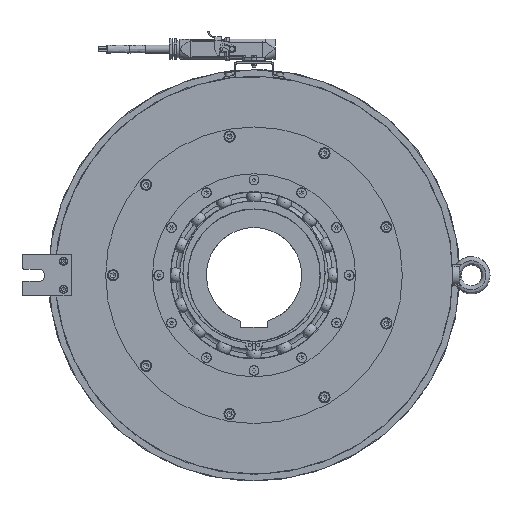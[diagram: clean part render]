
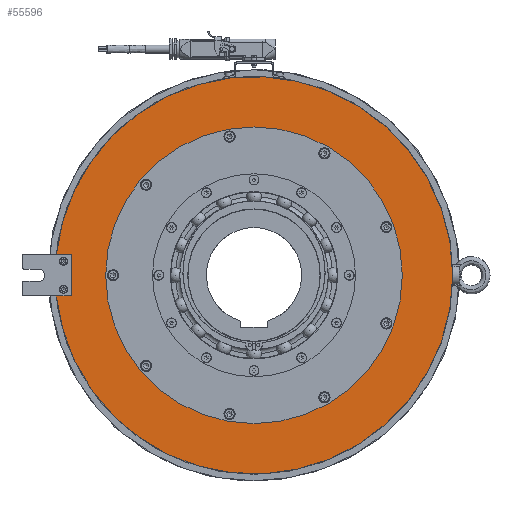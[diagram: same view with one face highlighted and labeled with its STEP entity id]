
A CAD part, left-side view. The second image highlights one B-rep face of the part: STEP entity #55596.
In plain terms, the highlighted planar face has unit normal (-1, 0, 0).
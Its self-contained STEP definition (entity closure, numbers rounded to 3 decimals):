
#1630=FACE_BOUND('',#9578,.T.);
#3057=PLANE('',#61132);
#6232=FACE_OUTER_BOUND('',#9577,.T.);
#9577=EDGE_LOOP('',(#48510,#48511,#48512,#48513,#48514,#48515,#48516));
#9578=EDGE_LOOP('',(#48517,#48518));
#12495=CIRCLE('',#61109,239.8);
#12498=CIRCLE('',#61112,239.8);
#12512=CIRCLE('',#61133,2.);
#12513=CIRCLE('',#61134,2.);
#12514=CIRCLE('',#61135,179.);
#12515=CIRCLE('',#61136,179.);
#16367=LINE('',#102837,#20297);
#16368=LINE('',#102839,#20298);
#16369=LINE('',#102843,#20299);
#20297=VECTOR('',#75848,10.);
#20298=VECTOR('',#75849,10.);
#20299=VECTOR('',#75852,10.);
#25608=VERTEX_POINT('',#102705);
#25609=VERTEX_POINT('',#102707);
#25610=VERTEX_POINT('',#102709);
#25632=VERTEX_POINT('',#102836);
#25633=VERTEX_POINT('',#102838);
#25634=VERTEX_POINT('',#102840);
#25635=VERTEX_POINT('',#102842);
#25636=VERTEX_POINT('',#102845);
#25637=VERTEX_POINT('',#102846);
#33304=EDGE_CURVE('',#25610,#25609,#12495,.T.);
#33313=EDGE_CURVE('',#25608,#25610,#12498,.T.);
#33332=EDGE_CURVE('',#25632,#25608,#16367,.T.);
#33333=EDGE_CURVE('',#25609,#25633,#16368,.T.);
#33334=EDGE_CURVE('',#25633,#25634,#12512,.T.);
#33335=EDGE_CURVE('',#25634,#25635,#16369,.T.);
#33336=EDGE_CURVE('',#25635,#25632,#12513,.T.);
#33337=EDGE_CURVE('',#25636,#25637,#12514,.T.);
#33338=EDGE_CURVE('',#25637,#25636,#12515,.T.);
#48510=ORIENTED_EDGE('',*,*,#33332,.T.);
#48511=ORIENTED_EDGE('',*,*,#33313,.T.);
#48512=ORIENTED_EDGE('',*,*,#33304,.T.);
#48513=ORIENTED_EDGE('',*,*,#33333,.T.);
#48514=ORIENTED_EDGE('',*,*,#33334,.T.);
#48515=ORIENTED_EDGE('',*,*,#33335,.T.);
#48516=ORIENTED_EDGE('',*,*,#33336,.T.);
#48517=ORIENTED_EDGE('',*,*,#33337,.T.);
#48518=ORIENTED_EDGE('',*,*,#33338,.T.);
#55596=ADVANCED_FACE('',(#6232,#1630),#3057,.T.);
#61109=AXIS2_PLACEMENT_3D('',#102710,#75793,#75794);
#61112=AXIS2_PLACEMENT_3D('',#102760,#75803,#75804);
#61132=AXIS2_PLACEMENT_3D('',#102835,#75846,#75847);
#61133=AXIS2_PLACEMENT_3D('',#102841,#75850,#75851);
#61134=AXIS2_PLACEMENT_3D('',#102844,#75853,#75854);
#61135=AXIS2_PLACEMENT_3D('',#102847,#75855,#75856);
#61136=AXIS2_PLACEMENT_3D('',#102848,#75857,#75858);
#75793=DIRECTION('center_axis',(-1.,0.,0.));
#75794=DIRECTION('ref_axis',(0.,1.,0.));
#75803=DIRECTION('center_axis',(-1.,0.,0.));
#75804=DIRECTION('ref_axis',(0.,1.,0.));
#75846=DIRECTION('center_axis',(-1.,0.,0.));
#75847=DIRECTION('ref_axis',(0.,0.,
1.));
#75848=DIRECTION('',(0.,1.,0.));
#75849=DIRECTION('',(0.,-1.,0.));
#75850=DIRECTION('center_axis',(1.,0.,0.));
#75851=DIRECTION('ref_axis',(0.,-0.707,0.707));
#75852=DIRECTION('',(0.,0.,-1.));
#75853=DIRECTION('center_axis',(1.,0.,0.));
#75854=DIRECTION('ref_axis',(0.,-0.707,-0.707));
#75855=DIRECTION('center_axis',(1.,0.,0.));
#75856=DIRECTION('ref_axis',(0.,1.,0.));
#75857=DIRECTION('center_axis',(1.,0.,0.));
#75858=DIRECTION('ref_axis',(0.,1.,0.));
#102705=CARTESIAN_POINT('',(-112.,238.493,-25.));
#102707=CARTESIAN_POINT('',(-112.,238.493,25.));
#102709=CARTESIAN_POINT('',(-112.,-239.8,0.));
#102710=CARTESIAN_POINT('Origin',(-112.,0.,0.));
#102760=CARTESIAN_POINT('Origin',(-112.,0.,0.));
#102835=CARTESIAN_POINT('Origin',(-112.,201.15,0.));
#102836=CARTESIAN_POINT('',(-112.,222.,-25.));
#102837=CARTESIAN_POINT('',(-112.,210.575,-25.));
#102838=CARTESIAN_POINT('',(-112.,222.,25.));
#102839=CARTESIAN_POINT('',(-112.,240.575,25.));
#102840=CARTESIAN_POINT('',(-112.,220.,23.));
#102841=CARTESIAN_POINT('Origin',(-112.,222.,23.));
#102842=CARTESIAN_POINT('',(-112.,220.,-23.));
#102843=CARTESIAN_POINT('',(-112.,220.,12.5));
#102844=CARTESIAN_POINT('Origin',(-112.,222.,-23.));
#102845=CARTESIAN_POINT('',(-112.,179.,0.));
#102846=CARTESIAN_POINT('',(-112.,-179.,0.));
#102847=CARTESIAN_POINT('Origin',(-112.,0.,0.));
#102848=CARTESIAN_POINT('Origin',(-112.,0.,0.));
